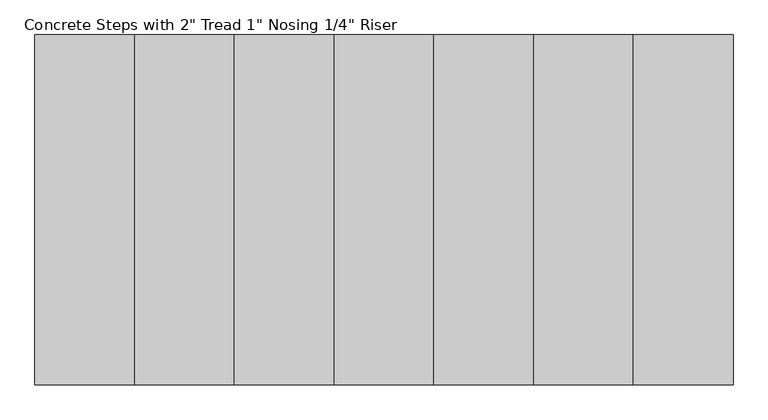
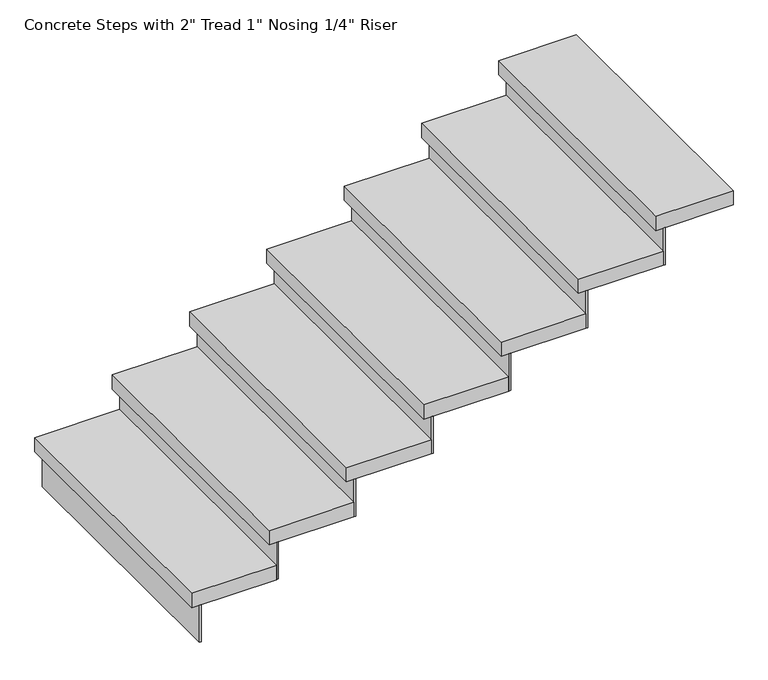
"""IFC4 building model written with IfcOpenShell, lengths in millimetres: stair flight geometry."""

from ifc_helpers import new_model, si_unit, frame, origin, place, context, project, spatial, polyline, outline, extrude, source, transform, mapped, element, save


def stair_flight_7d5748d5(model_context):
    return source(origin(), model_context, "Body", "SweptSolid", [
        extrude(outline(polyline([(6350.1221922, 42280.3406645), (6343.7721922, 42280.3406645), (6343.7721922, 43194.7406645), (6350.1221922, 43194.7406645), (6350.1221922, 42280.3406645)])), frame((0.0, 0.0, 2069.5478261), z_axis=(0.0, 0.0, 1.0), x_axis=(1.0, 0.0, 0.0)), (0.0, 0.0, 1.0), 132.5217391),
        extrude(outline(polyline([(6604.1221922, 43194.7406645), (6604.1221922, 42280.3406645), (6318.3721922, 42280.3406645), (6318.3721922, 43194.7406645), (6604.1221922, 43194.7406645)])), frame((0.0, 0.0, 2202.0695652), z_axis=(0.0, 0.0, 1.0), x_axis=(1.0, 0.0, 0.0)), (0.0, 0.0, 1.0), 50.8),
        extrude(outline(polyline([(6610.4721922, 42280.3406645), (6604.1221922, 42280.3406645), (6604.1221922, 43194.7406645), (6610.4721922, 43194.7406645), (6610.4721922, 42280.3406645)])), frame((0.0, 0.0, 2202.0695652), z_axis=(0.0, 0.0, 1.0), x_axis=(1.0, 0.0, 0.0)), (0.0, 0.0, 1.0), 132.5217391),
        extrude(outline(polyline([(6864.4721922, 43194.7406645), (6864.4721922, 42280.3406645), (6578.7221922, 42280.3406645), (6578.7221922, 43194.7406645), (6864.4721922, 43194.7406645)])), frame((0.0, 0.0, 2334.5913043), z_axis=(0.0, 0.0, 1.0), x_axis=(1.0, 0.0, 0.0)), (0.0, 0.0, 1.0), 50.8),
        extrude(outline(polyline([(6870.8221922, 42280.3406645), (6864.4721922, 42280.3406645), (6864.4721922, 43194.7406645), (6870.8221922, 43194.7406645), (6870.8221922, 42280.3406645)])), frame((0.0, 0.0, 2334.5913043), z_axis=(0.0, 0.0, 1.0), x_axis=(1.0, 0.0, 0.0)), (0.0, 0.0, 1.0), 132.5217391),
        extrude(outline(polyline([(7124.8221922, 43194.7406645), (7124.8221922, 42280.3406645), (6839.0721922, 42280.3406645), (6839.0721922, 43194.7406645), (7124.8221922, 43194.7406645)])), frame((0.0, 0.0, 2467.1130435), z_axis=(0.0, 0.0, 1.0), x_axis=(1.0, 0.0, 0.0)), (0.0, 0.0, 1.0), 50.8),
        extrude(outline(polyline([(7131.1721922, 42280.3406645), (7124.8221922, 42280.3406645), (7124.8221922, 43194.7406645), (7131.1721922, 43194.7406645), (7131.1721922, 42280.3406645)])), frame((0.0, 0.0, 2467.1130435), z_axis=(0.0, 0.0, 1.0), x_axis=(1.0, 0.0, 0.0)), (0.0, 0.0, 1.0), 132.5217391),
        extrude(outline(polyline([(7385.1721922, 43194.7406645), (7385.1721922, 42280.3406645), (7099.4221922, 42280.3406645), (7099.4221922, 43194.7406645), (7385.1721922, 43194.7406645)])), frame((0.0, 0.0, 2599.6347826), z_axis=(0.0, 0.0, 1.0), x_axis=(1.0, 0.0, 0.0)), (0.0, 0.0, 1.0), 50.8),
        extrude(outline(polyline([(7391.5221922, 42280.3406645), (7385.1721922, 42280.3406645), (7385.1721922, 43194.7406645), (7391.5221922, 43194.7406645), (7391.5221922, 42280.3406645)])), frame((0.0, 0.0, 2599.6347826), z_axis=(0.0, 0.0, 1.0), x_axis=(1.0, 0.0, 0.0)), (0.0, 0.0, 1.0), 132.5217391),
        extrude(outline(polyline([(7645.5221922, 43194.7406645), (7645.5221922, 42280.3406645), (7359.7721922, 42280.3406645), (7359.7721922, 43194.7406645), (7645.5221922, 43194.7406645)])), frame((0.0, 0.0, 2732.1565217), z_axis=(0.0, 0.0, 1.0), x_axis=(1.0, 0.0, 0.0)), (0.0, 0.0, 1.0), 50.8),
        extrude(outline(polyline([(7651.8721922, 42280.3406645), (7645.5221922, 42280.3406645), (7645.5221922, 43194.7406645), (7651.8721922, 43194.7406645), (7651.8721922, 42280.3406645)])), frame((0.0, 0.0, 2732.1565217), z_axis=(0.0, 0.0, 1.0), x_axis=(1.0, 0.0, 0.0)), (0.0, 0.0, 1.0), 132.5217391),
        extrude(outline(polyline([(7905.8721922, 43194.7406645), (7905.8721922, 42280.3406645), (7620.1221922, 42280.3406645), (7620.1221922, 43194.7406645), (7905.8721922, 43194.7406645)])), frame((0.0, 0.0, 2864.6782609), z_axis=(0.0, 0.0, 1.0), x_axis=(1.0, 0.0, 0.0)), (0.0, 0.0, 1.0), 50.8),
        extrude(outline(polyline([(7912.2221922, 42280.3406645), (7905.8721922, 42280.3406645), (7905.8721922, 43194.7406645), (7912.2221922, 43194.7406645), (7912.2221922, 42280.3406645)])), frame((0.0, 0.0, 2864.6782609), z_axis=(0.0, 0.0, 1.0), x_axis=(1.0, 0.0, 0.0)), (0.0, 0.0, 1.0), 132.5217391),
        extrude(outline(polyline([(8140.8221922, 43194.7406645), (8140.8221922, 42280.3406645), (7880.4721922, 42280.3406645), (7880.4721922, 43194.7406645), (8140.8221922, 43194.7406645)])), frame((0.0, 0.0, 2997.2), z_axis=(0.0, 0.0, 1.0), x_axis=(1.0, 0.0, 0.0)), (0.0, 0.0, 1.0), 50.8),
    ])


if __name__ == "__main__":
    model = new_model("IFC4")
    model_context = context("Model", 3, world=origin())
    ifc_project = project(units=[si_unit("LENGTHUNIT", "METRE", prefix="MILLI")], contexts=[model_context])
    site = spatial("IfcSite", under=ifc_project)
    building = spatial("IfcBuilding", under=site)
    placement = place(None, origin())
    stair_flight_shape = stair_flight_7d5748d5(model_context)
    element("IfcStairFlight", 1, ObjectType="Concrete Steps with 2\" Tread 1\" Nosing 1/4\" Riser", at=placement, inside=building, context=model_context, shape_type="MappedRepresentation", body=[
        mapped(stair_flight_shape, transform((0.0, 0.0, 0.0), x_axis=(1.0, 0.0, 0.0), y_axis=(0.0, 1.0, 0.0), z_axis=(0.0, 0.0, 1.0))),
    ])
    save(model, "model.ifc")
